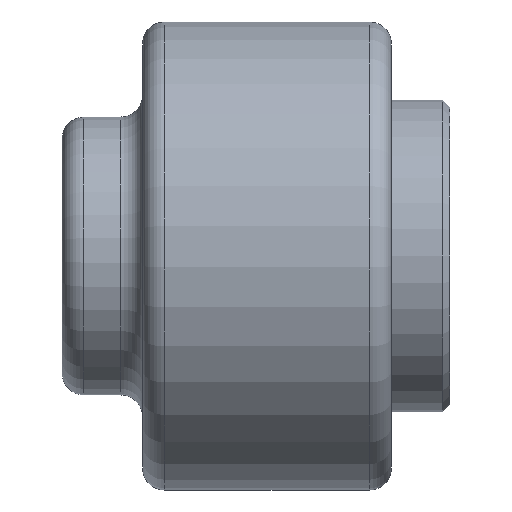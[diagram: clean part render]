
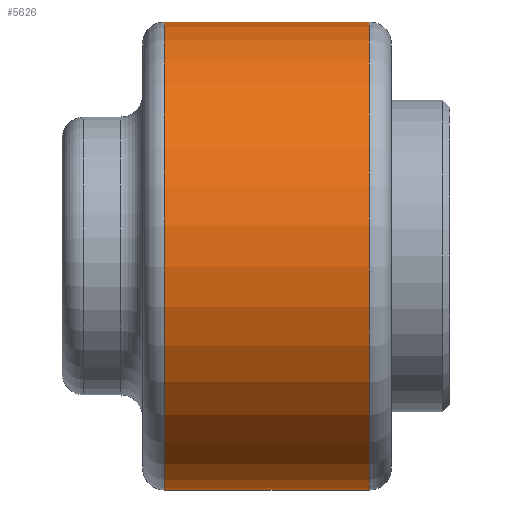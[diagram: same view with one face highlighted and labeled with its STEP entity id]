
A CAD part, left-side view. The second image highlights one B-rep face of the part: STEP entity #5626.
In plain terms, the highlighted cylindrical face has radius 32 mm (diameter 64 mm), a partial arc.
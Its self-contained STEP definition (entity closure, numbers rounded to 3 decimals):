
#185 = LINE ( 'NONE', #8611, #1369 ) ;
#435 = CIRCLE ( 'NONE', #6775, 32. ) ;
#1369 = VECTOR ( 'NONE', #2263, 1000. ) ;
#1554 = DIRECTION ( 'NONE',  ( 0., 1., 0. ) ) ;
#1699 = CARTESIAN_POINT ( 'NONE',  ( 0., 23.509, 0. ) ) ;
#2032 = CARTESIAN_POINT ( 'NONE',  ( 0., 23.509, -32. ) ) ;
#2069 = EDGE_CURVE ( 'NONE', #5086, #5588, #7022, .T. ) ;
#2083 = DIRECTION ( 'NONE',  ( 0., 1., 0. ) ) ;
#2261 = CARTESIAN_POINT ( 'NONE',  ( 0., 6.596, -32. ) ) ;
#2263 = DIRECTION ( 'NONE',  ( 0., 1., 0. ) ) ;
#2383 = CARTESIAN_POINT ( 'NONE',  ( 0., -21.404, 0. ) ) ;
#2482 = CYLINDRICAL_SURFACE ( 'NONE', #8017, 32. ) ;
#2503 = EDGE_CURVE ( 'NONE', #8429, #5588, #435, .T. ) ;
#2811 = EDGE_LOOP ( 'NONE', ( #8720, #7176, #4947, #8146 ) ) ;
#3120 = DIRECTION ( 'NONE',  ( 0., 0., 1. ) ) ;
#3173 = CARTESIAN_POINT ( 'NONE',  ( 0., 6.596, 0. ) ) ;
#3737 = FACE_OUTER_BOUND ( 'NONE', #2811, .T. ) ;
#4103 = CARTESIAN_POINT ( 'NONE',  ( 0., 6.596, 32. ) ) ;
#4907 = VERTEX_POINT ( 'NONE', #8623 ) ;
#4947 = ORIENTED_EDGE ( 'NONE', *, *, #6687, .T. ) ;
#5086 = VERTEX_POINT ( 'NONE', #5872 ) ;
#5588 = VERTEX_POINT ( 'NONE', #2261 ) ;
#5626 = ADVANCED_FACE ( 'NONE', ( #3737 ), #2482, .T. ) ;
#5872 = CARTESIAN_POINT ( 'NONE',  ( 0., -21.404, -32. ) ) ;
#6109 = EDGE_CURVE ( 'NONE', #5086, #4907, #6524, .T. ) ;
#6267 = DIRECTION ( 'NONE',  ( 0., -1., 0. ) ) ;
#6524 = CIRCLE ( 'NONE', #8325, 32. ) ;
#6687 = EDGE_CURVE ( 'NONE', #4907, #8429, #185, .T. ) ;
#6733 = DIRECTION ( 'NONE',  ( 0., 0., -1. ) ) ;
#6775 = AXIS2_PLACEMENT_3D ( 'NONE', #3173, #6267, #6733 ) ;
#7022 = LINE ( 'NONE', #2032, #7366 ) ;
#7176 = ORIENTED_EDGE ( 'NONE', *, *, #6109, .T. ) ;
#7341 = DIRECTION ( 'NONE',  ( 0., 1., 0. ) ) ;
#7366 = VECTOR ( 'NONE', #2083, 1000. ) ;
#7390 = DIRECTION ( 'NONE',  ( 0., 0., 1. ) ) ;
#8017 = AXIS2_PLACEMENT_3D ( 'NONE', #1699, #7341, #7390 ) ;
#8146 = ORIENTED_EDGE ( 'NONE', *, *, #2503, .T. ) ;
#8325 = AXIS2_PLACEMENT_3D ( 'NONE', #2383, #1554, #3120 ) ;
#8429 = VERTEX_POINT ( 'NONE', #4103 ) ;
#8611 = CARTESIAN_POINT ( 'NONE',  ( 0., 23.509, 32. ) ) ;
#8623 = CARTESIAN_POINT ( 'NONE',  ( 0., -21.404, 32. ) ) ;
#8720 = ORIENTED_EDGE ( 'NONE', *, *, #2069, .F. ) ;
